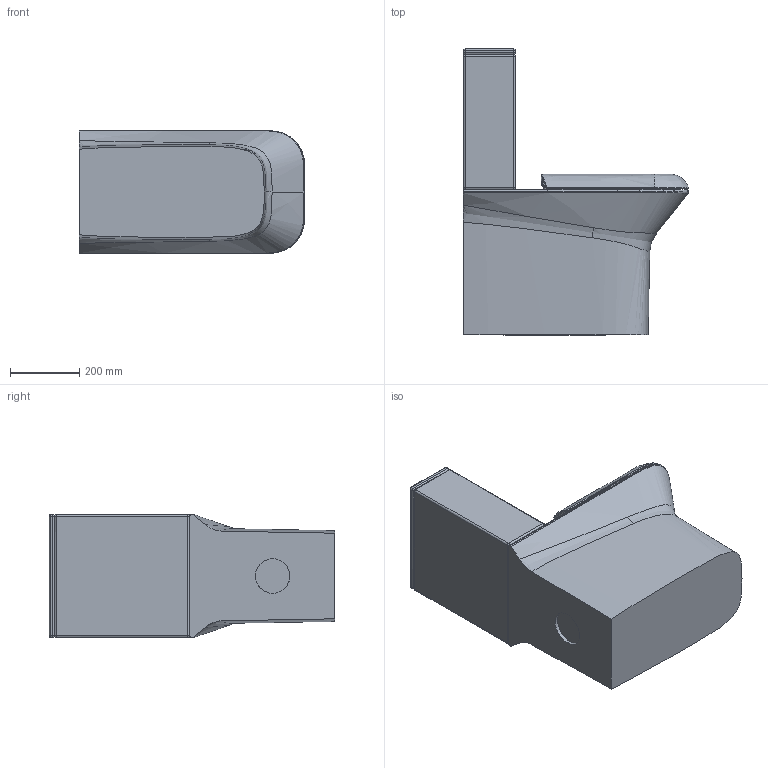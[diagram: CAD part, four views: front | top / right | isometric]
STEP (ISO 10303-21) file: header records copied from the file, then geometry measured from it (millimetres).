
FILE_DESCRIPTION(/* description */ (''),/* implementation_level */ '2;1');
FILE_NAME(/* name */ 'PRU100~3',/* time_stamp */ '2017-12-11T12:55:02+01:00',/* author */ (''),/* organization */ (''),/* preprocessor_version */ 'ST-DEVELOPER v15',/* originating_system */ '',/* authorisation */ '');
FILE_SCHEMA (('AUTOMOTIVE_DESIGN'));
Length unit declared in the file: millimetre
Products named in the file (1): Document
Bounding box: 650.33 x 826 x 358.1 mm (x, y, z)
Volume: 52979995 mm3; surface area: 2740470.6 mm2
Topology: 5 solids, 11 shells, 437 faces, 1050 edges, 611 vertices
Faces by surface type: bspline 354, plane 83
Entity records: 30721 total; most frequent: CARTESIAN_POINT 24831, ORIENTED_EDGE 2012, EDGE_CURVE 1020, VERTEX_POINT 613, B_SPLINE_CURVE_WITH_KNOTS 465, EDGE_LOOP 464, ADVANCED_FACE 437, FACE_OUTER_BOUND 437
